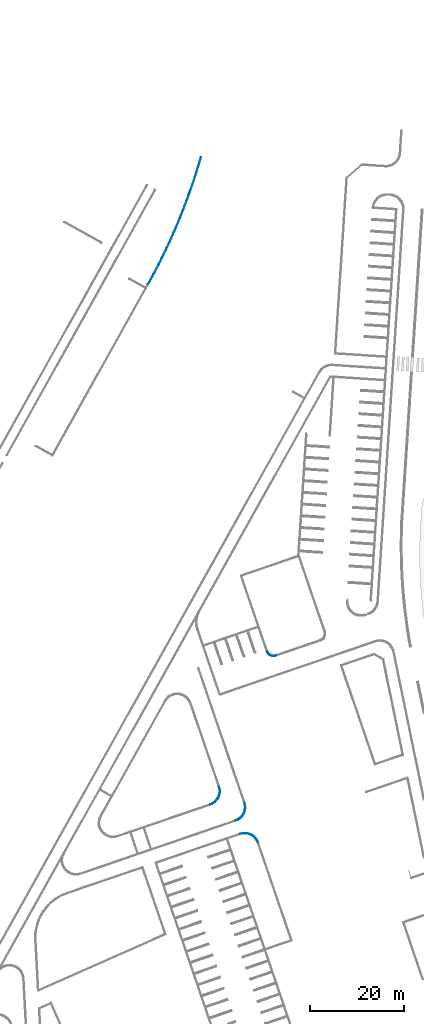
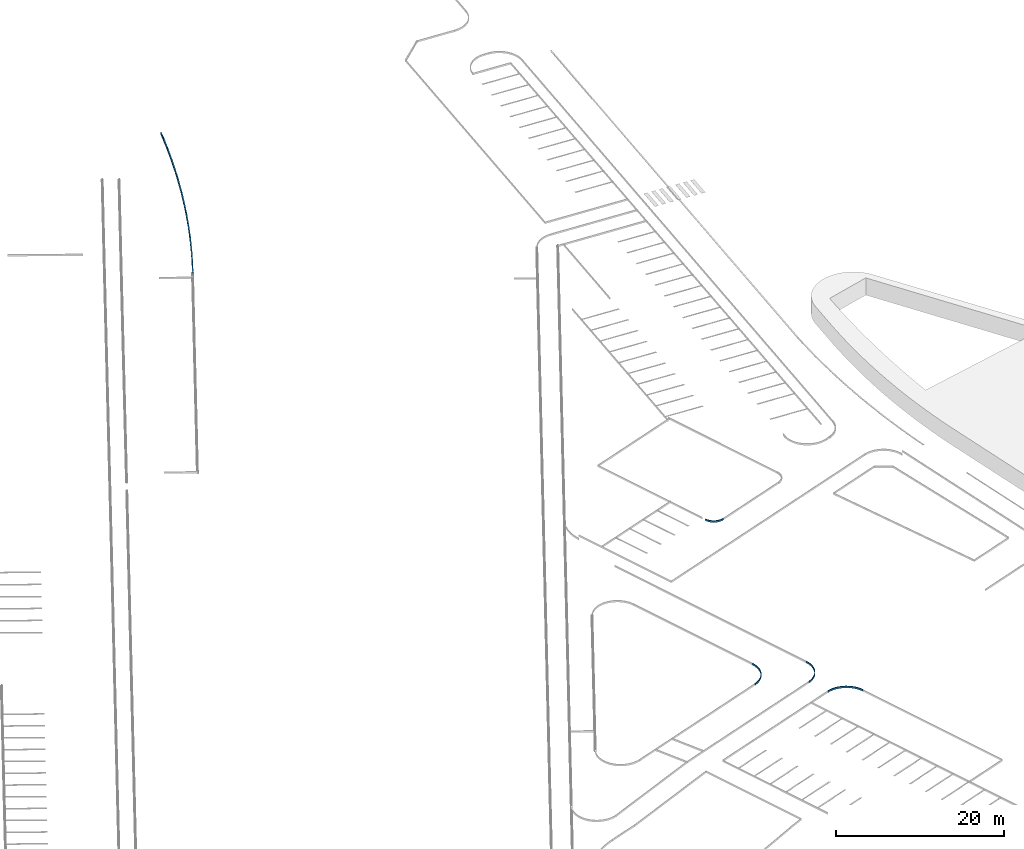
# One storey, part 94 of 112: 5 beams.
"""IFC2X3 building model written with IfcOpenShell, lengths in millimetres."""

from ifc_helpers import new_model, entity, si_unit, converted_unit, derived_unit, direction, frame, origin, place, context, subcontext, project, spatial, faceted_brep, material, type_object, element, save


model = new_model("IFC2X3")

# Units and contexts
model_context = context("Model", 3, precision=0.01, world=origin(), true_north=direction((6.123031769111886e-17, 1.0)))
body_context = subcontext(model_context, "Body", "Model", "MODEL_VIEW")
ifc_project = project(units=[si_unit("LENGTHUNIT", "METRE", prefix="MILLI"), si_unit("AREAUNIT", "SQUARE_METRE"), si_unit("VOLUMEUNIT", "CUBIC_METRE"), converted_unit("PLANEANGLEUNIT", "DEGREE", entity("IfcRatioMeasure", 0.017453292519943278), si_unit("PLANEANGLEUNIT", "RADIAN"), dimensions=[0, 0, 0, 0, 0, 0, 0]), si_unit("MASSUNIT", "GRAM", prefix="KILO"), derived_unit("MASSDENSITYUNIT", [(si_unit("MASSUNIT", "GRAM", prefix="KILO"), 1), (si_unit("LENGTHUNIT", "METRE"), -3)]), derived_unit("MOMENTOFINERTIAUNIT", [(si_unit("LENGTHUNIT", "METRE"), 4)]), si_unit("TIMEUNIT", "SECOND"), si_unit("FREQUENCYUNIT", "HERTZ"), si_unit("THERMODYNAMICTEMPERATUREUNIT", "DEGREE_CELSIUS"), derived_unit("THERMALTRANSMITTANCEUNIT", [(si_unit("MASSUNIT", "GRAM", prefix="KILO"), 1), (si_unit("THERMODYNAMICTEMPERATUREUNIT", "KELVIN"), -1), (si_unit("TIMEUNIT", "SECOND"), -3)]), derived_unit("THERMALCONDUCTANCEUNIT", [(si_unit("MASSUNIT", "GRAM", prefix="KILO"), 1), (si_unit("LENGTHUNIT", "METRE"), 1), (si_unit("THERMODYNAMICTEMPERATUREUNIT", "KELVIN"), -1), (si_unit("TIMEUNIT", "SECOND"), -3)]), derived_unit("VOLUMETRICFLOWRATEUNIT", [(si_unit("LENGTHUNIT", "METRE"), 3), (si_unit("TIMEUNIT", "SECOND"), -1)]), derived_unit("MASSFLOWRATEUNIT", [(si_unit("MASSUNIT", "GRAM", prefix="KILO"), 1), (si_unit("TIMEUNIT", "SECOND"), -1)]), derived_unit("ROTATIONALFREQUENCYUNIT", [(si_unit("TIMEUNIT", "SECOND"), -1)]), si_unit("ELECTRICCURRENTUNIT", "AMPERE"), si_unit("ELECTRICVOLTAGEUNIT", "VOLT"), si_unit("POWERUNIT", "WATT"), converted_unit("FORCEUNIT", "KIP", entity("IfcRatioMeasure", 2.088543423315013e-05), si_unit("FORCEUNIT", "NEWTON"), dimensions=[1, 1, -2, 0, 0, 0, 0]), si_unit("ILLUMINANCEUNIT", "LUX"), si_unit("LUMINOUSFLUXUNIT", "LUMEN"), si_unit("LUMINOUSINTENSITYUNIT", "CANDELA"), derived_unit("USERDEFINED", [(si_unit("MASSUNIT", "GRAM", prefix="KILO"), -1), (si_unit("LENGTHUNIT", "METRE"), -2), (si_unit("TIMEUNIT", "SECOND"), 3), (si_unit("LUMINOUSFLUXUNIT", "LUMEN"), 1)]), derived_unit("USERDEFINED", [(si_unit("MASSUNIT", "GRAM", prefix="KILO"), 1), (si_unit("LENGTHUNIT", "METRE"), 3), (si_unit("TIMEUNIT", "SECOND"), -3), (si_unit("ELECTRICCURRENTUNIT", "AMPERE"), -2)]), derived_unit("USERDEFINED", [(si_unit("LENGTHUNIT", "METRE"), 2), (si_unit("TIMEUNIT", "SECOND"), -2)]), derived_unit("SOUNDPOWERUNIT", [(si_unit("MASSUNIT", "GRAM", prefix="KILO"), 1), (si_unit("LENGTHUNIT", "METRE"), 2), (si_unit("TIMEUNIT", "SECOND"), -3)]), derived_unit("SOUNDPRESSUREUNIT", [(si_unit("MASSUNIT", "GRAM", prefix="KILO"), 1), (si_unit("LENGTHUNIT", "METRE"), -1), (si_unit("TIMEUNIT", "SECOND"), -2)]), derived_unit("LINEARVELOCITYUNIT", [(si_unit("LENGTHUNIT", "METRE"), 1), (si_unit("TIMEUNIT", "SECOND"), -1)]), si_unit("PRESSUREUNIT", "PASCAL"), derived_unit("USERDEFINED", [(si_unit("LENGTHUNIT", "METRE"), -2), (si_unit("MASSUNIT", "GRAM", prefix="KILO"), 1), (si_unit("TIMEUNIT", "SECOND"), -2)]), derived_unit("LINEARFORCEUNIT", [(si_unit("MASSUNIT", "GRAM", prefix="KILO"), 1), (si_unit("LENGTHUNIT", "METRE"), 1), (si_unit("TIMEUNIT", "SECOND"), -2), (si_unit("LENGTHUNIT", "METRE"), -1)]), derived_unit("PLANARFORCEUNIT", [(si_unit("MASSUNIT", "GRAM", prefix="KILO"), 1), (si_unit("LENGTHUNIT", "METRE"), 1), (si_unit("TIMEUNIT", "SECOND"), -2), (si_unit("LENGTHUNIT", "METRE"), -2)]), derived_unit("SPECIFICHEATCAPACITYUNIT", [(si_unit("LENGTHUNIT", "METRE"), 2), (si_unit("TIMEUNIT", "SECOND"), -2), (si_unit("THERMODYNAMICTEMPERATUREUNIT", "KELVIN"), -1)]), derived_unit("VAPORPERMEABILITYUNIT", [(si_unit("TIMEUNIT", "SECOND"), 1), (si_unit("LENGTHUNIT", "METRE"), -1)]), derived_unit("DYNAMICVISCOSITYUNIT", [(si_unit("MASSUNIT", "GRAM", prefix="KILO"), 1), (si_unit("LENGTHUNIT", "METRE"), -1), (si_unit("TIMEUNIT", "SECOND"), -1)]), derived_unit("THERMALEXPANSIONCOEFFICIENTUNIT", [(si_unit("THERMODYNAMICTEMPERATUREUNIT", "KELVIN"), -1)])], contexts=[model_context])

# Site, building, storey
site_placement = place(None, frame((0.0, 0.0, 0.0), z_axis=(0.0, 0.0, 1.0), x_axis=(0.8191520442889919, 0.5735764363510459, 0.0)))
site = spatial("IfcSite", under=ifc_project, at=site_placement, Name="Default", CompositionType="ELEMENT")
building_placement = place(site_placement, origin())
building = spatial("IfcBuilding", under=site, at=building_placement, CompositionType="ELEMENT")
storey_placement = place(building_placement, frame((0.0, 0.0, -3600.0)))
storey = spatial("IfcBuildingStorey", under=building, at=storey_placement, Name="0.UG -3.60", CompositionType="ELEMENT", Elevation=-3600.0000000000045)

# Beams
ifc_material = material(Name="Paveta_bordur")
beam_type_1 = type_object("IfcBeamType", Name="Beam-157", PredefinedType="NOTDEFINED")
beam_1_placement = place(storey_placement, frame((50592.29667168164, 97132.48324987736, 1860.0)))
element("IfcBeam", 1, at=beam_1_placement, inside=storey, type_object=beam_type_1, material=ifc_material, Name="Beam-157:Beam-157", ObjectType="Beam-157:Beam-157", context=body_context, shape_type="Brep", body=[
    faceted_brep([(2017.2074932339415, 29.342731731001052, 250.0), (2017.2074932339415, 29.342731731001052, 0.0), (2113.2807907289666, 1.5952722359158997, 0.0), (2113.2807907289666, 1.5952722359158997, 250.0), (29.342731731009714, 3778.1283604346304, 0.0), (1.5952722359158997, 3682.055062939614, 0.0), (1.5952722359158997, 3682.055062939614, 250.0), (29.342731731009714, 3778.1283604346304, 250.0), (1336.313136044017, 3007.970857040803, 0.0), (1590.0635446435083, 2721.0619652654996, 0.0), (1805.8538363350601, 2404.6120765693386, 0.0), (1898.4255356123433, 2236.8527308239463, 0.0), (2051.0967918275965, 1885.5729711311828, 0.0), (2158.5371614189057, 1517.9283750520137, 0.0), (2219.0522455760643, 1139.7169174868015, 0.0), (2231.6876852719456, 756.9032190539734, 0.0), (2196.2442120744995, 375.5244804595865, 0.0), (2064.675069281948, 216.45839183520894, 0.0), (2099.803063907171, 406.27795095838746, 0.0), (2122.441053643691, 597.9885726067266, 0.0), (2132.492099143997, 790.7693224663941, 0.0), (2129.9131602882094, 983.7946837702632, 0.0), (2114.7152804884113, 1176.2380922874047, 0.0), (2086.963539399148, 1367.2754757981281, 0.0), (2046.776774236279, 1556.088782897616, 0.0), (1994.3270708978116, 1741.8694860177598, 0.0), (1929.839027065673, 1923.8220436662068, 0.0), (1853.588790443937, 2101.167307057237, 0.0), (1765.9028762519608, 2273.1458565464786, 0.0), (1667.1567690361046, 2439.0212535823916, 0.0), (1557.7733147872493, 2598.083194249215, 0.0), (1438.220910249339, 2749.650550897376, 0.0), (1309.0114971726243, 2893.0742888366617, 0.0), (1170.698370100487, 3027.7402456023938, 0.0), (1023.873807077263, 3153.071760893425, 0.0), (869.1665334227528, 3268.5321459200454, 0.0), (707.2390294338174, 3373.6269815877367, 0.0), (538.7846935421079, 3467.906235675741, 0.0), (364.52487307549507, 3550.966189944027, 0.0), (185.2057753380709, 3622.451168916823, 0.0), (389.9253225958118, 3648.9533736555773, 0.0), (731.4746932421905, 3475.603988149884, 0.0), (1048.604406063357, 3260.8140272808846, 0.0), (2196.2442120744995, 375.5244804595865, 250.0), (2231.6876852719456, 756.9032190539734, 250.0), (2051.096791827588, 1885.5729711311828, 250.0), (2158.5371614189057, 1517.9283750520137, 250.0), (2219.0522455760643, 1139.7169174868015, 250.0), (1898.4255356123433, 2236.8527308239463, 250.0), (1805.8538363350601, 2404.6120765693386, 250.0), (1590.0635446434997, 2721.0619652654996, 250.0), (1336.313136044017, 3007.970857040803, 250.0), (389.9253225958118, 3648.9533736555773, 250.0), (731.4746932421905, 3475.603988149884, 250.0), (1048.604406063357, 3260.8140272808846, 250.0), (1170.698370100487, 3027.7402456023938, 250.0), (1309.0114971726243, 2893.0742888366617, 250.0), (1438.220910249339, 2749.650550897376, 250.0), (1557.7733147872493, 2598.083194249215, 250.0), (1667.1567690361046, 2439.0212535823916, 250.0), (1765.9028762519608, 2273.1458565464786, 250.0), (1853.588790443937, 2101.167307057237, 250.0), (1929.839027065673, 1923.8220436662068, 250.0), (1994.3270708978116, 1741.8694860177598, 250.0), (2046.776774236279, 1556.088782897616, 250.0), (2086.963539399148, 1367.2754757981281, 250.0), (2114.7152804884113, 1176.2380922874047, 250.0), (2129.9131602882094, 983.7946837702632, 250.0), (2132.492099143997, 790.7693224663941, 250.0), (2122.441053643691, 597.9885726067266, 250.0), (2099.803063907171, 406.27795095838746, 250.0), (2064.675069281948, 216.45839183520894, 250.0), (185.2057753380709, 3622.451168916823, 250.0), (364.52487307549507, 3550.966189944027, 250.0), (538.7846935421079, 3467.906235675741, 250.0), (707.2390294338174, 3373.6269815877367, 250.0), (869.1665334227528, 3268.5321459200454, 250.0), (1023.873807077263, 3153.071760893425, 250.0)], [[[0, 1, 2, 3]], [[4, 5, 6, 7]], [[8, 9, 10, 11, 12, 13, 14, 15, 16, 2, 1, 17, 18, 19, 20, 21, 22, 23, 24, 25, 26, 27, 28, 29, 30, 31, 32, 33, 34, 35, 36, 37, 38, 39, 5, 4, 40, 41, 42]], [[43, 3, 2, 16]], [[43, 16, 15, 44]], [[13, 12, 45, 46]], [[47, 14, 13, 46]], [[15, 14, 47, 44]], [[45, 12, 11, 48]], [[11, 10, 49, 48]], [[49, 10, 9, 50]], [[8, 51, 50, 9]], [[41, 40, 52, 53]], [[54, 42, 41, 53]], [[51, 8, 42, 54]], [[52, 40, 4, 7]], [[55, 56, 57, 58, 59, 60, 61, 62, 63, 64, 65, 66, 67, 68, 69, 70, 71, 0, 3, 43, 44, 47, 46, 45, 48, 49, 50, 51, 54, 53, 52, 7, 6, 72, 73, 74, 75, 76, 77]], [[17, 1, 0, 71]], [[70, 18, 17, 71]], [[67, 66, 22, 21]], [[18, 70, 69, 19]], [[26, 25, 63, 62]], [[27, 26, 62, 61]], [[24, 23, 65, 64]], [[25, 24, 64, 63]], [[22, 66, 65, 23]], [[28, 27, 61, 60]], [[68, 20, 19, 69]], [[67, 21, 20, 68]], [[31, 57, 56, 32]], [[32, 56, 55, 33]], [[30, 29, 59, 58]], [[30, 58, 57, 31]], [[34, 33, 55, 77]], [[38, 37, 74, 73]], [[39, 38, 73, 72]], [[36, 35, 76, 75]], [[37, 36, 75, 74]], [[34, 77, 76, 35]], [[5, 39, 72, 6]], [[60, 59, 29, 28]]]),
])
beam_type_2 = type_object("IfcBeamType", Name="Beam-150", PredefinedType="NOTDEFINED")
beam_2_placement = place(storey_placement, frame((48969.16176257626, 109490.29887047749, 1360.0)))
element("IfcBeam", 2, at=beam_2_placement, inside=storey, type_object=beam_type_2, material=ifc_material, Name="Beam-150:Beam-150", ObjectType="Beam-150:Beam-150", context=body_context, shape_type="Brep", body=[
    faceted_brep([(29.342730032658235, 216.07545089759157, 250.0), (29.342730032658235, 216.07545089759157, 0.0), (1.5952722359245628, 120.00215291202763, 0.0), (1.5952722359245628, 120.00215291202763, 250.0), (3778.128293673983, 2203.9401750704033, 0.0), (3682.0549966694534, 2231.6876362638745, 0.0), (3682.0549966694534, 2231.6876362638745, 250.0), (3778.128293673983, 2203.9401750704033, 250.0), (3007.9707915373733, 896.969808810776, 0.0), (2721.06190495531, 643.219407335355, 0.0), (2404.612022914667, 427.4291211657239, 0.0), (2236.852680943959, 334.8574239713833, 0.0), (1885.572929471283, 182.18617044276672, 0.0), (1517.9283421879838, 74.74580144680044, 0.0), (1139.7168935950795, 14.230715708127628, 0.0), (756.903203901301, 1.5952722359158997, 0.0), (375.524473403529, 37.0387395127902, 0.0), (216.4583867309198, 168.60787908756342, 0.0), (406.2779421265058, 133.4798881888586, 0.0), (597.988559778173, 110.84190164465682, 0.0), (790.7693054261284, 100.7908587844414, 0.0), (983.7946623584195, 103.36979971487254, 0.0), (1176.2380664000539, 118.56768101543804, 0.0), (1367.275445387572, 146.3194230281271, 0.0), (1556.0887479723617, 186.50618853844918, 0.0), (1741.8694466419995, 238.95589165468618, 0.0), (1923.8219999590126, 303.44393470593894, 0.0), (2101.1672591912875, 379.6941700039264, 0.0), (2273.1458047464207, 467.38008234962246, 0.0), (2439.0211981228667, 566.1261872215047, 0.0), (2598.083135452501, 675.5096386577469, 0.0), (2749.6504891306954, 795.0620399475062, 0.0), (2893.074224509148, 924.2714493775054, 0.0), (3027.7401791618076, 1062.5845724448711, 0.0), (3153.071692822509, 1209.4091311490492, 0.0), (3268.5320767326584, 1364.1164002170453, 0.0), (3373.626911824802, 1526.043899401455, 0.0), (3467.9061659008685, 1694.4982303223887, 0.0), (3550.966120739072, 1868.7580457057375, 0.0), (3622.4511008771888, 2048.0771383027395, 0.0), (3648.9533039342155, 1843.3575944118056, 0.0), (3475.603917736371, 1501.8082337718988, 0.0), (3260.8139583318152, 1184.6785303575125, 0.0), (375.524473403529, 37.0387395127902, 250.0), (756.903203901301, 1.5952722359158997, 250.0), (1885.572929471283, 182.18617044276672, 250.0), (1517.9283421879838, 74.74580144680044, 250.0), (1139.7168935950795, 14.230715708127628, 250.0), (2236.8526809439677, 334.8574239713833, 250.0), (2404.6120229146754, 427.4291211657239, 250.0), (2721.06190495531, 643.219407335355, 250.0), (3007.9707915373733, 896.969808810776, 250.0), (3648.9533039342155, 1843.3575944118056, 250.0), (3475.603917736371, 1501.8082337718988, 250.0), (3260.8139583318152, 1184.6785303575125, 250.0), (3027.7401791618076, 1062.5845724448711, 250.0), (2893.074224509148, 924.2714493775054, 250.0), (2749.6504891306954, 795.0620399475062, 250.0), (2598.083135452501, 675.5096386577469, 250.0), (2439.0211981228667, 566.1261872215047, 250.0), (2273.1458047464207, 467.38008234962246, 250.0), (2101.1672591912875, 379.6941700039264, 250.0), (1923.8219999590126, 303.44393470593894, 250.0), (1741.8694466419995, 238.95589165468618, 250.0), (1556.0887479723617, 186.50618853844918, 250.0), (1367.275445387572, 146.3194230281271, 250.0), (1176.2380664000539, 118.56768101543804, 250.0), (983.7946623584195, 103.36979971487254, 250.0), (790.7693054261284, 100.7908587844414, 250.0), (597.988559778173, 110.84190164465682, 250.0), (406.2779421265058, 133.4798881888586, 250.0), (216.4583867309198, 168.60787908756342, 250.0), (3622.4511008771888, 2048.0771383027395, 250.0), (3550.966120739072, 1868.7580457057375, 250.0), (3467.9061659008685, 1694.4982303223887, 250.0), (3373.626911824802, 1526.043899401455, 250.0), (3268.5320767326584, 1364.1164002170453, 250.0), (3153.071692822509, 1209.4091311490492, 250.0)], [[[0, 1, 2, 3]], [[4, 5, 6, 7]], [[8, 9, 10, 11, 12, 13, 14, 15, 16, 2, 1, 17, 18, 19, 20, 21, 22, 23, 24, 25, 26, 27, 28, 29, 30, 31, 32, 33, 34, 35, 36, 37, 38, 39, 5, 4, 40, 41, 42]], [[43, 3, 2, 16]], [[43, 16, 15, 44]], [[13, 12, 45, 46]], [[47, 14, 13, 46]], [[15, 14, 47, 44]], [[45, 12, 11, 48]], [[11, 10, 49, 48]], [[49, 10, 9, 50]], [[8, 51, 50, 9]], [[41, 40, 52, 53]], [[54, 42, 41, 53]], [[51, 8, 42, 54]], [[52, 40, 4, 7]], [[55, 56, 57, 58, 59, 60, 61, 62, 63, 64, 65, 66, 67, 68, 69, 70, 71, 0, 3, 43, 44, 47, 46, 45, 48, 49, 50, 51, 54, 53, 52, 7, 6, 72, 73, 74, 75, 76, 77]], [[17, 1, 0, 71]], [[70, 18, 17, 71]], [[67, 66, 22, 21]], [[18, 70, 69, 19]], [[26, 25, 63, 62]], [[27, 26, 62, 61]], [[24, 23, 65, 64]], [[25, 24, 64, 63]], [[22, 66, 65, 23]], [[28, 27, 61, 60]], [[68, 20, 19, 69]], [[67, 21, 20, 68]], [[31, 57, 56, 32]], [[32, 56, 55, 33]], [[30, 29, 59, 58]], [[30, 58, 57, 31]], [[34, 33, 55, 77]], [[38, 37, 74, 73]], [[39, 38, 73, 72]], [[36, 35, 76, 75]], [[37, 36, 75, 74]], [[34, 77, 76, 35]], [[5, 39, 72, 6]], [[60, 59, 29, 28]]]),
])
beam_type_3 = type_object("IfcBeamType", Name="Beam-163", PredefinedType="NOTDEFINED")
beam_3_placement = place(storey_placement, frame((51424.72042548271, 103576.73507985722, 1860.0)))
element("IfcBeam", 3, at=beam_3_placement, inside=storey, type_object=beam_type_3, material=ifc_material, Name="Beam-163:Beam-163", ObjectType="Beam-163:Beam-163", context=body_context, shape_type="Brep", body=[
    faceted_brep([(29.342731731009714, 216.07546427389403, 250.0), (29.342731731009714, 216.07546427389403, 0.0), (1.5952722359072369, 120.00216677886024, 0.0), (1.5952722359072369, 120.00216677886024, 250.0), (3778.1283604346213, 2203.940225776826, 0.0), (3682.0550629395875, 2231.6876852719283, 0.0), (3682.0550629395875, 2231.6876852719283, 250.0), (3778.1283604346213, 2203.940225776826, 250.0), (3007.970857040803, 896.9698214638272, 0.0), (2721.0619652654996, 643.2194128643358, 0.0), (2404.6120765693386, 427.4291211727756, 0.0), (2236.8527308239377, 334.85742189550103, 0.0), (1885.5729711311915, 182.18616568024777, 0.0), (1517.9283750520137, 74.74579608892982, 0.0), (1139.7169174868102, 14.230711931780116, 0.0), (756.9032190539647, 1.5952722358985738, 0.0), (375.5244804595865, 37.03874543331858, 0.0), (216.4583918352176, 168.6078882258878, 0.0), (406.27795095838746, 133.47989360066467, 0.0), (597.9885726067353, 110.84190386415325, 0.0), (790.7693224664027, 100.79085836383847, 0.0), (983.7946837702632, 103.3697972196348, 0.0), (1176.2380922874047, 118.56767701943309, 0.0), (1367.2754757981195, 146.31941810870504, 0.0), (1556.0887828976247, 186.50618327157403, 0.0), (1741.8694860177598, 238.95588661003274, 0.0), (1923.8220436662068, 303.44393044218, 0.0), (2101.167307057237, 379.69416706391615, 0.0), (2273.1458565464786, 467.38008125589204, 0.0), (2439.0212535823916, 566.1261884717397, 0.0), (2598.0831942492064, 675.509642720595, 0.0), (2749.6505508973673, 795.0620472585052, 0.0), (2893.074288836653, 924.2714603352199, 0.0), (3027.7402456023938, 1062.5845874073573, 0.0), (3153.071760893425, 1209.4091504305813, 0.0), (3268.532145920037, 1364.1164240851, 0.0), (3373.6269815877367, 1526.0439280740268, 0.0), (3467.906235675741, 1694.4982639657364, 0.0), (3550.966189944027, 1868.7580844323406, 0.0), (3622.4511689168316, 2048.0771821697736, 0.0), (3648.9533736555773, 1843.3576349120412, 0.0), (3475.603988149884, 1501.8082642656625, 0.0), (3260.8140272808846, 1184.6785514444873, 0.0), (375.5244804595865, 37.03874543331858, 250.0), (756.9032190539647, 1.5952722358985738, 250.0), (1885.5729711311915, 182.18616568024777, 250.0), (1517.9283750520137, 74.74579608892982, 250.0), (1139.7169174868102, 14.230711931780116, 250.0), (2236.8527308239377, 334.85742189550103, 250.0), (2404.6120765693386, 427.4291211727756, 250.0), (2721.0619652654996, 643.2194128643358, 250.0), (3007.970857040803, 896.9698214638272, 250.0), (3648.9533736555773, 1843.3576349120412, 250.0), (3475.603988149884, 1501.8082642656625, 250.0), (3260.8140272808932, 1184.6785514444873, 250.0), (3027.7402456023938, 1062.5845874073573, 250.0), (2893.074288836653, 924.2714603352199, 250.0), (2749.6505508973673, 795.0620472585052, 250.0), (2598.0831942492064, 675.509642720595, 250.0), (2439.0212535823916, 566.1261884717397, 250.0), (2273.1458565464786, 467.38008125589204, 250.0), (2101.167307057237, 379.69416706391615, 250.0), (1923.8220436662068, 303.44393044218, 250.0), (1741.8694860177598, 238.95588661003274, 250.0), (1556.0887828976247, 186.50618327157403, 250.0), (1367.2754757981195, 146.31941810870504, 250.0), (1176.2380922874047, 118.56767701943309, 250.0), (983.7946837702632, 103.3697972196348, 250.0), (790.7693224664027, 100.79085836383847, 250.0), (597.9885726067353, 110.84190386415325, 250.0), (406.27795095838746, 133.47989360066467, 250.0), (216.4583918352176, 168.6078882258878, 250.0), (3622.4511689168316, 2048.0771821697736, 250.0), (3550.966189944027, 1868.7580844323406, 250.0), (3467.906235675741, 1694.4982639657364, 250.0), (3373.6269815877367, 1526.0439280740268, 250.0), (3268.532145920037, 1364.1164240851, 250.0), (3153.071760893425, 1209.4091504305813, 250.0)], [[[0, 1, 2, 3]], [[4, 5, 6, 7]], [[8, 9, 10, 11, 12, 13, 14, 15, 16, 2, 1, 17, 18, 19, 20, 21, 22, 23, 24, 25, 26, 27, 28, 29, 30, 31, 32, 33, 34, 35, 36, 37, 38, 39, 5, 4, 40, 41, 42]], [[43, 3, 2, 16]], [[43, 16, 15, 44]], [[13, 12, 45, 46]], [[47, 14, 13, 46]], [[15, 14, 47, 44]], [[45, 12, 11, 48]], [[11, 10, 49, 48]], [[49, 10, 9, 50]], [[8, 51, 50, 9]], [[41, 40, 52, 53]], [[54, 42, 41, 53]], [[51, 8, 42, 54]], [[52, 40, 4, 7]], [[55, 56, 57, 58, 59, 60, 61, 62, 63, 64, 65, 66, 67, 68, 69, 70, 71, 0, 3, 43, 44, 47, 46, 45, 48, 49, 50, 51, 54, 53, 52, 7, 6, 72, 73, 74, 75, 76, 77]], [[17, 1, 0, 71]], [[70, 18, 17, 71]], [[67, 66, 22, 21]], [[18, 70, 69, 19]], [[26, 25, 63, 62]], [[27, 26, 62, 61]], [[24, 23, 65, 64]], [[25, 24, 64, 63]], [[22, 66, 65, 23]], [[28, 27, 61, 60]], [[68, 20, 19, 69]], [[67, 21, 20, 68]], [[31, 57, 56, 32]], [[32, 56, 55, 33]], [[30, 29, 59, 58]], [[30, 58, 57, 31]], [[34, 33, 55, 77]], [[38, 37, 74, 73]], [[39, 38, 73, 72]], [[36, 35, 76, 75]], [[37, 36, 75, 74]], [[34, 77, 76, 35]], [[5, 39, 72, 6]], [[60, 59, 29, 28]]]),
])
beam_type_4 = type_object("IfcBeamType", Name="Beam-139", PredefinedType="NOTDEFINED")
beam_4_placement = place(storey_placement, frame((101657.88417357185, 208021.79300001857, -1450.0)))
element("IfcBeam", 4, at=beam_4_placement, inside=storey, type_object=beam_type_4, material=ifc_material, Name="Beam-139 237451:Beam-139 237451", ObjectType="Beam-139 237451:Beam-139 237451", context=body_context, shape_type="Brep", body=[
    faceted_brep([(1.5952722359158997, 91.62924786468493, 250.0), (1.5952722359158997, 91.62924786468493, 0.0), (45.114040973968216, 1.5952722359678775, 0.0), (45.114040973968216, 1.5952722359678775, 250.0), (24824.28508174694, 15729.173782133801, 250.0), (24824.28508174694, 15729.173782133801, 0.0), (24761.3392874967, 15806.877237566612, 0.0), (24761.3392874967, 15806.877237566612, 250.0), (17923.911325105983, 10638.910716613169, 0.0), (18921.744000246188, 11348.863310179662, 0.0), (19912.70899909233, 12068.370852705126, 0.0), (20896.714829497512, 12797.366914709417, 0.0), (21873.670641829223, 13535.784190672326, 0.0), (22843.48623735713, 14283.554505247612, 0.0), (23806.072076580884, 15040.608819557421, 0.0), (23864.606162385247, 14966.914800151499, 0.0), (22904.92724302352, 14204.655818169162, 0.0), (21930.77779982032, 13460.978975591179, 0.0), (20956.62835661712, 12717.302133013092, 0.0), (19968.36813978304, 11992.48206727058, 0.0), (18980.107922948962, 11267.662001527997, 0.0), (17978.101893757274, 10561.966386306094, 0.0), (16976.095864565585, 9856.27077108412, 0.0), (15960.714060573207, 9169.960217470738, 0.0), (14945.33225658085, 8483.64966385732, 0.0), (13916.94965497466, 7816.977624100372, 0.0), (12888.567053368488, 7150.305584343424, 0.0), (11847.563432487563, 6503.518258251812, 0.0), (10806.559811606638, 5856.730932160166, 0.0), (9753.319610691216, 5230.067176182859, 0.0), (8700.079409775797, 4603.403420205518, 0.0), (7634.99158699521, 3997.0946592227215, 0.0), (6569.903764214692, 3390.7858982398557, 0.0), (5493.3616530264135, 2805.056040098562, 0.0), (4416.819541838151, 2219.326181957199, 0.0), (3329.220705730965, 1654.391534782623, 0.0), (2241.6218696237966, 1089.4568876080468, 0.0), (1143.3679552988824, 545.5260799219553, 0.0), (1101.599352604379, 629.8613129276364, 0.0), (2196.3810249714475, 1178.637972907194, 0.0), (3285.839212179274, 1737.90856127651, 0.0), (4369.8733285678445, 2307.6214426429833, 0.0), (5448.383289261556, 2887.7240175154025, 0.0), (6521.269519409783, 3478.162727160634, 0.0), (7588.4329633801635, 4078.883058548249, 0.0), (8649.775093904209, 4689.829549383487, 0.0), (9705.19792117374, 5310.945793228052, 0.0), (10754.604001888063, 5942.174444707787, 0.0), (11797.896448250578, 6583.45722480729, 0.0), (12834.978936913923, 7234.734926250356, 0.0), (13865.755717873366, 7895.9474189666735, 0.0), (14890.131623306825, 8567.033655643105, 0.0), (15908.012076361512, 9247.931677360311, 0.0), (16919.303099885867, 9938.578619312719, 0.0), (2241.6218696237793, 1089.4568876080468, 250.0), (4416.819541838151, 2219.326181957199, 250.0), (3329.220705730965, 1654.391534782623, 250.0), (1143.3679552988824, 545.52607992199, 250.0), (9753.319610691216, 5230.067176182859, 250.0), (8700.079409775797, 4603.403420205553, 250.0), (10806.559811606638, 5856.730932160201, 250.0), (7634.991586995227, 3997.0946592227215, 250.0), (6569.903764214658, 3390.7858982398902, 250.0), (5493.3616530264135, 2805.056040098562, 250.0), (12888.567053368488, 7150.305584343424, 250.0), (11847.563432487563, 6503.518258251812, 250.0), (18980.107922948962, 11267.662001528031, 250.0), (17978.101893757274, 10561.966386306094, 250.0), (16976.095864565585, 9856.270771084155, 250.0), (14945.332256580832, 8483.64966385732, 250.0), (15960.714060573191, 9169.960217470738, 250.0), (23603.697937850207, 14759.679199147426, 250.0), (22904.92724302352, 14204.65581816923, 250.0), (21930.77779982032, 13460.978975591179, 250.0), (20956.62835661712, 12717.302133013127, 250.0), (19968.36813978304, 11992.48206727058, 250.0), (13916.94965497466, 7816.977624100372, 250.0), (16919.303099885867, 9938.578619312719, 250.0), (15908.012076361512, 9247.931677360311, 250.0), (14890.131623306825, 8567.033655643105, 250.0), (13865.755717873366, 7895.9474189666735, 250.0), (12834.978936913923, 7234.734926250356, 250.0), (11797.896448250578, 6583.45722480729, 250.0), (10754.604001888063, 5942.174444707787, 250.0), (9705.19792117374, 5310.945793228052, 250.0), (8649.775093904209, 4689.829549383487, 250.0), (7588.4329633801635, 4078.883058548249, 250.0), (6521.269519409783, 3478.162727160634, 250.0), (5448.383289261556, 2887.7240175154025, 250.0), (4369.8733285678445, 2307.6214426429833, 250.0), (3285.839212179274, 1737.90856127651, 250.0), (2196.3810249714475, 1178.637972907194, 250.0), (1101.599352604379, 629.8613129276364, 250.0), (23806.072076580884, 15040.608819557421, 250.0), (22843.48623735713, 14283.554505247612, 250.0), (21873.670641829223, 13535.784190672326, 250.0), (20896.714829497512, 12797.366914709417, 250.0), (19912.70899909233, 12068.370852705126, 250.0), (18921.744000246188, 11348.863310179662, 250.0), (17923.911325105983, 10638.910716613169, 250.0)], [[[0, 1, 2, 3]], [[4, 5, 6, 7]], [[8, 9, 10, 11, 12, 13, 14, 6, 5, 15, 16, 17, 18, 19, 20, 21, 22, 23, 24, 25, 26, 27, 28, 29, 30, 31, 32, 33, 34, 35, 36, 37, 2, 1, 38, 39, 40, 41, 42, 43, 44, 45, 46, 47, 48, 49, 50, 51, 52, 53]], [[54, 36, 35, 34, 55, 56]], [[36, 54, 57, 3, 2, 37]], [[58, 59, 30, 29, 28, 60]], [[61, 62, 32, 31, 30, 59]], [[63, 55, 34, 33, 32, 62]], [[60, 28, 27, 26, 64, 65]], [[20, 66, 67, 68, 22, 21]], [[69, 24, 23, 22, 68, 70]], [[15, 5, 4, 71, 72, 16]], [[73, 74, 18, 17, 16, 72]], [[75, 66, 20, 19, 18, 74]], [[64, 26, 25, 24, 69, 76]], [[77, 78, 79, 80, 81, 82, 83, 84, 85, 86, 87, 88, 89, 90, 91, 92, 0, 3, 57, 54, 56, 55, 63, 62, 61, 59, 58, 60, 65, 64, 76, 69, 70, 68, 67, 66, 75, 74, 73, 72, 71, 4, 7, 93, 94, 95, 96, 97, 98, 99]], [[38, 1, 0, 92]], [[39, 38, 92, 91]], [[89, 88, 42, 41]], [[90, 89, 41, 40]], [[91, 90, 40, 39]], [[86, 85, 45, 44]], [[87, 86, 44, 43]], [[83, 82, 48, 47]], [[84, 83, 47, 46]], [[85, 84, 46, 45]], [[88, 87, 43, 42]], [[82, 81, 49, 48]], [[79, 78, 52, 51]], [[80, 79, 51, 50]], [[99, 98, 9, 8]], [[77, 99, 8, 53]], [[78, 77, 53, 52]], [[96, 95, 12, 11]], [[97, 96, 11, 10]], [[93, 7, 6, 14]], [[94, 93, 14, 13]], [[95, 94, 13, 12]], [[98, 97, 10, 9]], [[81, 80, 50, 49]]]),
])
beam_type_5 = type_object("IfcBeamType", Name="Beam-161", PredefinedType="NOTDEFINED")
beam_5_placement = place(storey_placement, frame((77502.36433565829, 127586.74140932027, 1260.0)))
element("IfcBeam", 5, at=beam_5_placement, inside=storey, type_object=beam_type_5, material=ifc_material, Name="Beam-161 240349:Beam-161 240349", ObjectType="Beam-161 240349:Beam-161 240349", context=body_context, shape_type="Brep", body=[
    faceted_brep([(1148.966488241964, 97.66856973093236, 0.0), (1148.966488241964, 97.66856973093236, 250.0), (1121.2190287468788, 1.5952722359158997, 250.0), (1121.2190287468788, 1.5952722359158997, 0.0), (62.16853974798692, 1920.8170055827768, 250.0), (158.24183724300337, 1893.0695460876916, 250.0), (158.24183724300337, 1893.0695460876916, 0.0), (62.16853974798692, 1920.8170055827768, 0.0), (1022.1471714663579, 140.73421232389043, 250.0), (1022.1471714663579, 140.73421232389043, 0.0), (899.8424397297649, 195.31755478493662, 250.0), (899.8424397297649, 195.31755478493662, 0.0), (783.0957538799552, 260.95291128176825, 250.0), (783.0957538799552, 260.95291128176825, 0.0), (390.7239637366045, 621.5061717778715, 0.0), (390.7239637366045, 621.5061717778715, 250.0), (475.87678062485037, 518.1292572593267, 250.0), (475.87678062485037, 518.1292572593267, 0.0), (570.2047689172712, 423.0502411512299, 250.0), (570.2047689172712, 423.0502411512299, 0.0), (672.9031554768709, 337.0803040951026, 0.0), (672.9031554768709, 337.0803040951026, 250.0), (315.47281206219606, 732.299009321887, 250.0), (315.47281206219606, 732.299009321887, 0.0), (250.76534189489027, 849.5625244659, 0.0), (250.76534189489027, 849.5625244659, 250.0), (155.09502639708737, 1099.4531136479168, 250.0), (197.153614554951, 972.2962662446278, 250.0), (197.153614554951, 972.2962662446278, 0.0), (155.09502639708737, 1099.4531136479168, 0.0), (124.94840646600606, 1229.9482092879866, 250.0), (124.94840646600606, 1229.9482092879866, 0.0), (127.0613153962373, 1762.8176219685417, 0.0), (127.0613153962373, 1762.8176219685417, 250.0), (108.03193551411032, 1630.2443539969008, 250.0), (108.03193551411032, 1630.2443539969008, 0.0), (101.31604955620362, 1496.4808105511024, 250.0), (106.9709550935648, 1362.6682150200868, 250.0), (106.9709550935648, 1362.6682150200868, 0.0), (101.31604955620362, 1496.4808105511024, 0.0), (46.632137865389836, 1118.6284024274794, 250.0), (84.78878273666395, 988.9035161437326, 250.0), (134.10649887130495, 862.9978429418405, 250.0), (194.20994867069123, 741.8696010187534, 250.0), (264.6417085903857, 626.440649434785, 250.0), (344.8657504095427, 517.5894722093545, 250.0), (434.27152072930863, 416.14449252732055, 250.0), (532.1785876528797, 322.87776793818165, 250.0), (637.8418192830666, 238.49911453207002, 250.0), (750.4570546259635, 163.65070481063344, 250.0), (869.1672237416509, 98.90218036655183, 250.0), (993.0688705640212, 44.74631656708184, 250.0), (30.350720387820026, 1789.3936361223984, 250.0), (10.108278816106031, 1655.697266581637, 250.0), (1.5952722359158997, 1520.7454070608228, 250.0), (4.876489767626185, 1385.565122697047, 250.0), (19.926959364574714, 1251.1852170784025, 250.0), (993.0688705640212, 44.74631656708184, 0.0), (869.1672237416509, 98.90218036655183, 0.0), (750.4570546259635, 163.65070481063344, 0.0), (344.8657504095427, 517.5894722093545, 0.0), (434.2715207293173, 416.14449252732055, 0.0), (532.1785876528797, 322.87776793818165, 0.0), (637.8418192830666, 238.49911453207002, 0.0), (264.6417085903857, 626.440649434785, 0.0), (194.20994867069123, 741.8696010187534, 0.0), (46.632137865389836, 1118.6284024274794, 0.0), (84.78878273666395, 988.9035161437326, 0.0), (134.10649887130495, 862.9978429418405, 0.0), (19.926959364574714, 1251.1852170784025, 0.0), (30.350720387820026, 1789.3936361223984, 0.0), (10.108278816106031, 1655.697266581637, 0.0), (1.5952722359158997, 1520.7454070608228, 0.0), (4.876489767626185, 1385.565122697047, 0.0)], [[[0, 1, 2, 3]], [[4, 5, 6, 7]], [[8, 1, 0, 9]], [[10, 8, 9, 11]], [[12, 10, 11, 13]], [[14, 15, 16, 17]], [[16, 18, 19, 17]], [[20, 19, 18, 21]], [[22, 15, 14, 23]], [[20, 21, 12, 13]], [[23, 24, 25, 22]], [[26, 27, 28, 29]], [[27, 25, 24, 28]], [[30, 26, 29, 31]], [[32, 33, 34, 35]], [[36, 37, 38, 39]], [[34, 36, 39, 35]], [[38, 37, 30, 31]], [[5, 33, 32, 6]], [[40, 41, 42, 43, 44, 45, 46, 47, 48, 49, 50, 51, 2, 1, 8, 10, 12, 21, 18, 16, 15, 22, 25, 27, 26, 30, 37, 36, 34, 33, 5, 4, 52, 53, 54, 55, 56]], [[3, 2, 51, 57]], [[57, 51, 50, 58]], [[58, 50, 49, 59]], [[46, 45, 60, 61]], [[61, 62, 47, 46]], [[48, 47, 62, 63]], [[64, 60, 45, 44]], [[49, 48, 63, 59]], [[44, 43, 65, 64]], [[66, 67, 41, 40]], [[67, 68, 42, 41]], [[69, 66, 40, 56]], [[53, 52, 70, 71]], [[72, 73, 55, 54]], [[71, 72, 54, 53]], [[56, 55, 73, 69]], [[7, 70, 52, 4]], [[43, 42, 68, 65]], [[31, 29, 28, 24, 23, 14, 17, 19, 20, 13, 11, 9, 0, 3, 57, 58, 59, 63, 62, 61, 60, 64, 65, 68, 67, 66, 69, 73, 72, 71, 70, 7, 6, 32, 35, 39, 38]]]),
])

save(model, "model.ifc")
